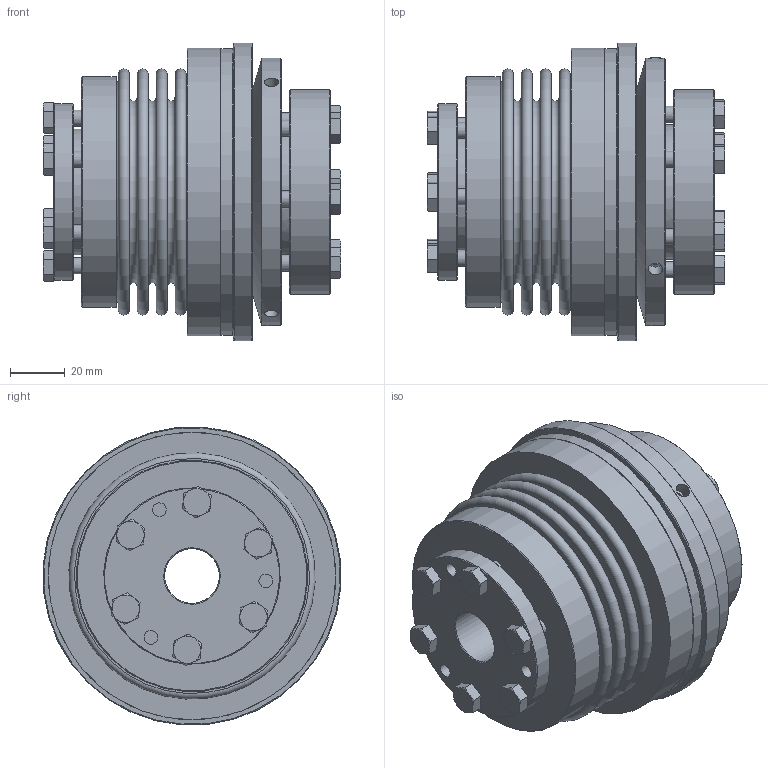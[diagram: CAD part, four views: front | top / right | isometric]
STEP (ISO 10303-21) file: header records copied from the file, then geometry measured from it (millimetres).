
FILE_DESCRIPTION( ( 'Unknown' ), '1' );
FILE_NAME( 'K:/Konstruktion/Korrigierte 3D Modelle/KBK-B-IA/KBK-BIA-200-110.stp', 'Unknown', ( 'Unknown' ), ( 'Unknown' ), 'PSStep 16.0.42', 'Unknown', ' ' );
FILE_SCHEMA( ( 'AUTOMOTIVE_DESIGN { 1 0 10303 214 1 1 1 1 }' ) );
Length unit declared in the file: millimetre
Products named in the file (18): Stellring 200; Druckring L-A-200; KBK L-A-200 Grundkörper; Druckring 200; din_en_24017_m6x25_0; BA5-200; BA200_Standard_3; Hex Screw GradeC_ISO_ISO 4018 - M6 x 25-NN_3; KB200_Standard_3; A-200; Assem1; BK200_Standard_0; Flansch BK200
Assembly tree (27 placements, depth 4):
  Assem1
    BK200_Standard_0
    Flansch BK200
    BA5-200
      BA200_Standard_3
      Hex Screw GradeC_ISO_ISO 4018 - M6 x 25-NN_3  x6
      KB200_Standard_3
    A-200
      Stellring 200
        Stellring 200
      Druckring 200
        Druckring 200
      KBK L-A-200 Grundkörper
        KBK L-A-200 Grundkörper
      din_en_24017_m6x25_0  x6
        din_en_24017_m6x25_0
      Druckring L-A-200
        Druckring L-A-200
Bounding box: 108.8 x 108.72 x 108.72 mm (x, y, z)
Volume: 471211.4 mm3; surface area: 188026.2 mm2
Topology: 20 solids, 20 shells, 424 faces, 890 edges, 565 vertices
Faces by surface type: plane 189, cone 128, cylinder 80, torus 27
Full cylindrical faces by diameter (mm): 3.242 x3, 4.917 x6, 5 x3, 5.2 x6, 6 x18, 6.5 x6, 6.6 x6, 8.8 x6, 20 x2, 46 x1, 47 x1, 49.29 x1, 50 x2, 60 x1, 62 x1, 63 x1, 64.5 x1, 65 x1, 66 x2, 75 x1, 77 x1, 79.2 x2, 80.4 x2, 84.5 x1, 90 x1, 98 x1, 105 x2, 109 x1
Entity records: 8058 total; most frequent: CARTESIAN_POINT 1328, DIRECTION 1052, ORIENTED_EDGE 648, AXIS2_PLACEMENT_3D 502, EDGE_LOOP 454, EDGE_CURVE 324, FACE_OUTER_BOUND 316, VERTEX_POINT 284
